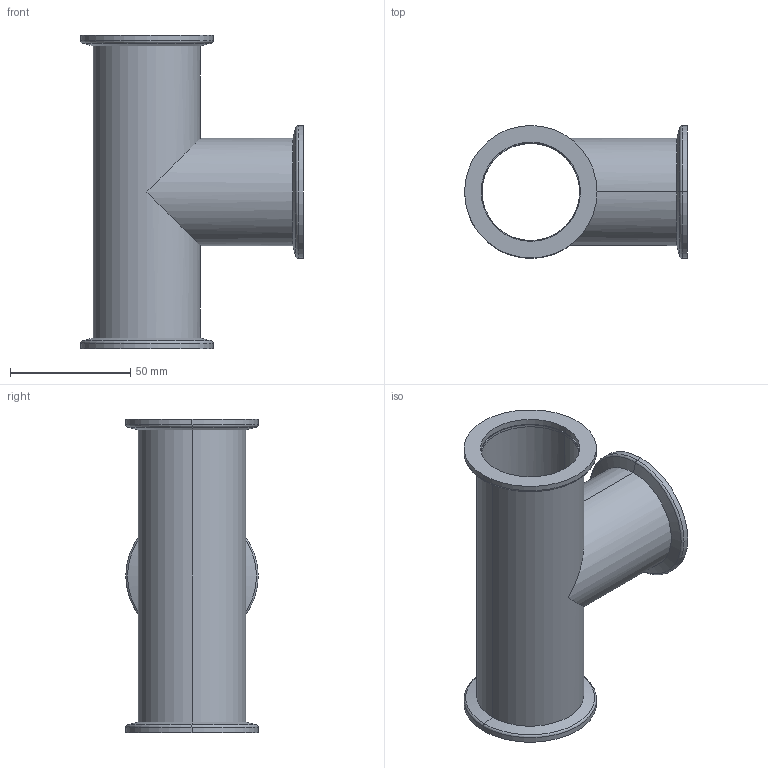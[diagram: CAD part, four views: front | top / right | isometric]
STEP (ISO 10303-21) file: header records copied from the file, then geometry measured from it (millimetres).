
FILE_DESCRIPTION (( 'STEP AP214' ), '1' );
FILE_NAME ('W3TS40.STEP', '2020-04-09T07:57:11', ( '' ), ( '' ), 'SwSTEP 2.0', 'SolidWorks 2018', '' );
FILE_SCHEMA (( 'AUTOMOTIVE_DESIGN' ));
Length unit declared in the file: millimetre
Products named in the file (1): W3TS40
Bounding box: 92.5 x 55 x 130 mm (x, y, z)
Volume: 53502 mm3; surface area: 53365.5 mm2
Topology: 5 solids, 5 shells, 60 faces, 132 edges, 82 vertices
Faces by surface type: cylinder 32, plane 16, torus 6, cone 6
Entity records: 1758 total; most frequent: CARTESIAN_POINT 323, DIRECTION 310, ORIENTED_EDGE 264, AXIS2_PLACEMENT_3D 133, EDGE_CURVE 132, VERTEX_POINT 82, EDGE_LOOP 72, CIRCLE 72
